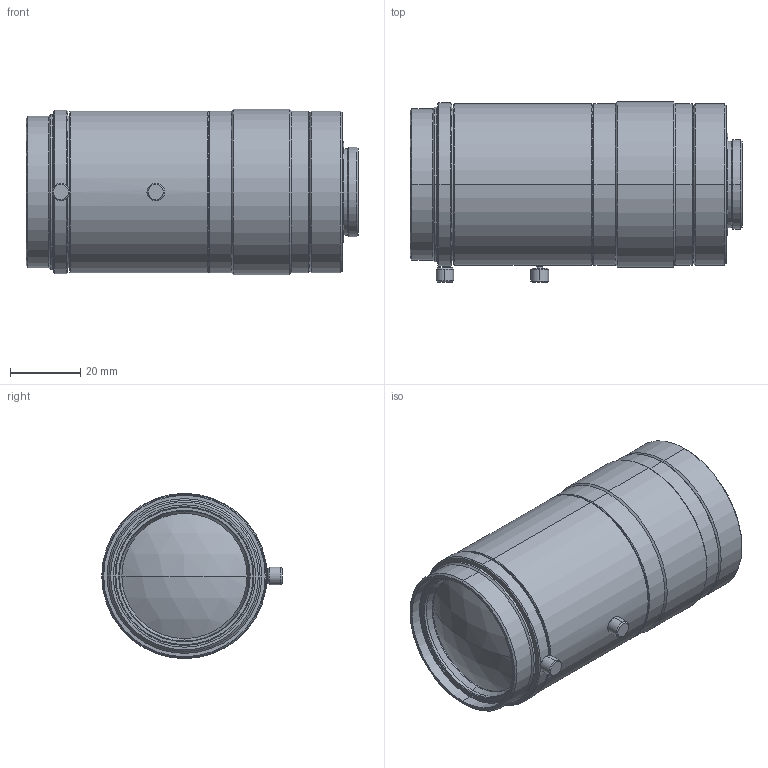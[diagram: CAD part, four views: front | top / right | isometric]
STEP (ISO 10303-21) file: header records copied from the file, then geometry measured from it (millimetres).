
FILE_DESCRIPTION (( 'STEP AP214' ), '1' );
FILE_NAME ('VS-LDV75.STEP', '2020-03-24T02:21:52', ( '' ), ( '' ), 'SwSTEP 2.0', 'SolidWorks 2018', '' );
FILE_SCHEMA (( 'AUTOMOTIVE_DESIGN' ));
Length unit declared in the file: millimetre
Products named in the file (1): VS-LDV75
Bounding box: 94.4 x 51.3 x 47 mm (x, y, z)
Volume: 144748.3 mm3; surface area: 19331.9 mm2
Topology: 1 solids, 1 shells, 122 faces, 244 edges, 142 vertices
Faces by surface type: cone 59, cylinder 42, plane 19, sphere 2
Entity records: 3233 total; most frequent: DIRECTION 625, CARTESIAN_POINT 566, ORIENTED_EDGE 488, AXIS2_PLACEMENT_3D 263, EDGE_CURVE 244, VERTEX_POINT 142, CIRCLE 140, EDGE_LOOP 140
